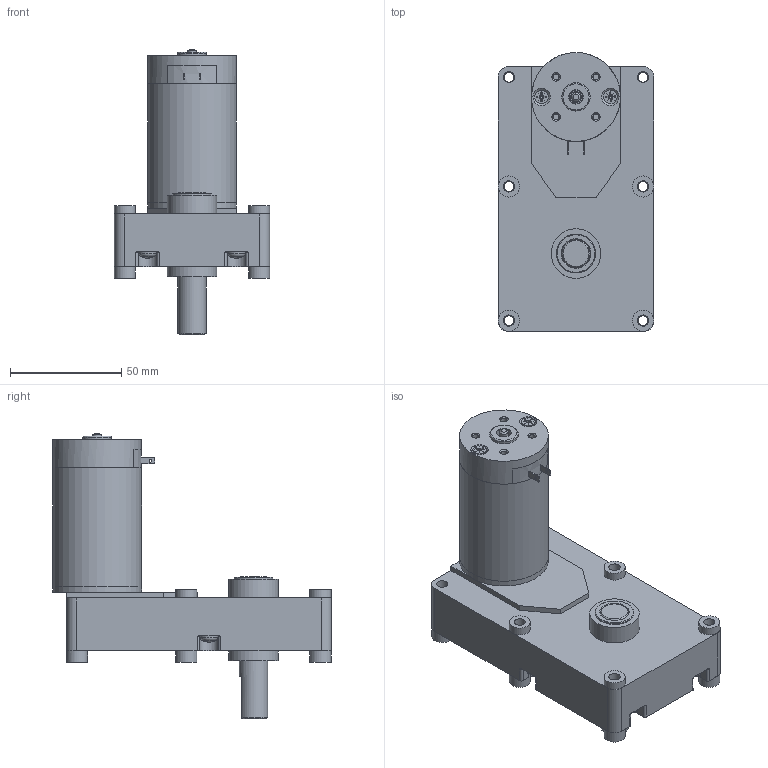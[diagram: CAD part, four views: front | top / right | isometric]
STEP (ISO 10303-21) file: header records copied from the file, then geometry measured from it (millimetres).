
FILE_DESCRIPTION((''),'2;1');
FILE_NAME('D:\업무 관련\2. DC\홈페이지 링크용 도면\3D\SG\SG45BT.stp','2015-04-04T09:20:44',('leejy'),(''),'Autodesk Inventor 2013','Autodesk Inventor 2013','');
FILE_SCHEMA(('AUTOMOTIVE_DESIGN { 1 0 10303 214 1 1 1 1 }'));
Length unit declared in the file: millimetre
Products named in the file (10): SG45BT; SG2 SERIES BOX; RM45ㅁBT; REAR_HOUSING__ASS'Y_TERMINAL; RM4TYPE_BRUSH_BRAKET_TERMINAL; RM4TYPE_REAR_HOUSING; RM4TYPE_FRONT_HOUSING_; RM4TYPE_PIPE_HOUSING_pi40XL53.5; RM45TYPE_SHAFT; AS 1427 Z - 미터 M3.5 x 5
Assembly tree (9 placements, depth 3):
  SG45BT
    SG2 SERIES BOX
    RM45ㅁBT
      RM4TYPE_FRONT_HOUSING_
      RM4TYPE_PIPE_HOUSING_pi40XL53.5
      RM45TYPE_SHAFT
      AS 1427 Z - 미터 M3.5 x 5  x2
  REAR_HOUSING__ASS'Y_TERMINAL
    RM4TYPE_BRUSH_BRAKET_TERMINAL
    RM4TYPE_REAR_HOUSING
Bounding box: 69.85 x 125.41 x 128.38 mm (x, y, z)
Volume: 123972.8 mm3; surface area: 77749.2 mm2
Topology: 9 solids, 9 shells, 537 faces, 1406 edges, 909 vertices
Faces by surface type: plane 215, cylinder 129, cone 127, torus 60, sphere 6
Full cylindrical faces by diameter (mm): 1.2 x2, 2.7 x4, 2.8 x4, 3.132 x2, 3.5 x2, 3.571 x6, 3.7 x2, 3.969 x1, 4 x7, 4.3 x6, 4.4 x6, 4.45 x1, 5 x1, 5.05 x6, 6 x1, 6.1 x2, 6.5 x1, 6.65 x1, 9.4 x1, 9.5 x9, 12.7 x5, 17.5 x4, 20.3 x1, 22.3 x2, 36.5 x1, 40 x3
Entity records: 15561 total; most frequent: CARTESIAN_POINT 3884, DIRECTION 2351, ORIENTED_EDGE 2186, EDGE_CURVE 1093, AXIS2_PLACEMENT_3D 996, VERTEX_POINT 779, EDGE_LOOP 718, FACE_OUTER_BOUND 496
